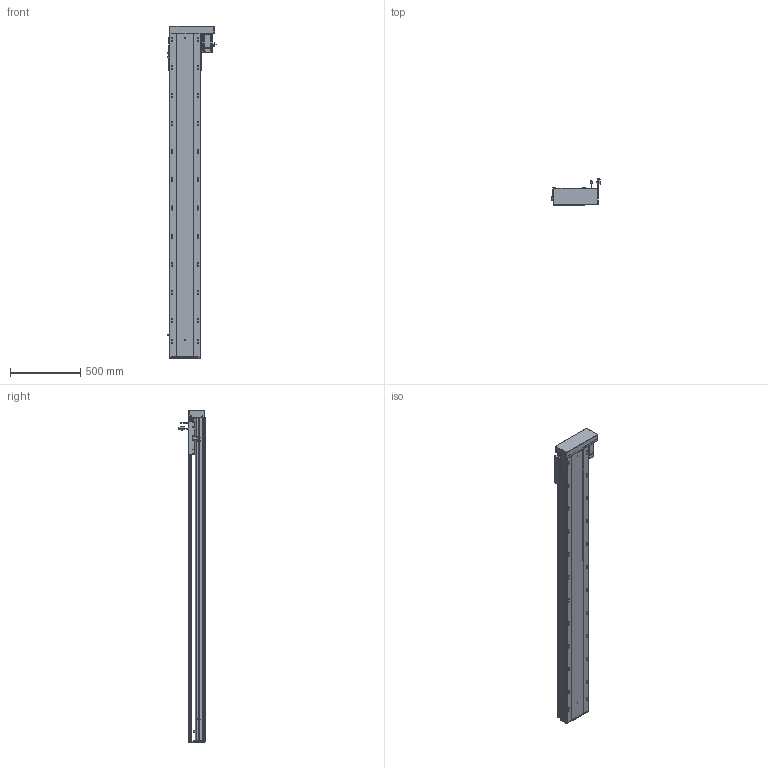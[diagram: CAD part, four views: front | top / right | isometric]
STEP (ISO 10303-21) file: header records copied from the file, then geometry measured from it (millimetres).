
FILE_DESCRIPTION (( 'STEP AP203' ), '1' );
FILE_NAME ('RY220-L2525-800-RK-邧嶺.SLDASM_1950.step', '2022-08-06T08:53:49', ( '' ), ( '' ), 'SwSTEP 2.0', 'SolidWorks 2016', '' );
FILE_SCHEMA (( 'CONFIG_CONTROL_DESIGN' ));
Length unit declared in the file: millimetre
Products named in the file (12): RY220綴裔啣; RY220-俋离672覜茼んえ; 滅袉蝶18-10; 覜茼ん672; RY220半封闭25-32螺母铝滑块; 怢湛750W_ECMA-CX0807ES; RY220-800-蛌殏奻裔啣_1950; RY220-L2525-800-RK-邧嶺.SLDASM_1950; RY220酘衵殏萇儂欶; RY220蛌殏菁釱-800-邧嶺_1950; RY220左右折电机安装板; 滅袉蝶18-15
Assembly tree (15 placements, depth 2):
  RY220-L2525-800-RK-邧嶺.SLDASM_1950
    RY220蛌殏菁釱-800-邧嶺_1950
    RY220-800-蛌殏奻裔啣_1950
    怢湛750W_ECMA-CX0807ES
    滅袉蝶18-10  x2
    RY220-俋离672覜茼んえ
    覜茼ん672  x3
    RY220綴裔啣
    RY220半封闭25-32螺母铝滑块
    滅袉蝶18-15  x2
    RY220左右折电机安装板
    RY220酘衵殏萇儂欶
Bounding box: 347.44 x 187.27 x 2364 mm (x, y, z)
Volume: 17884908.9 mm3; surface area: 5445501.8 mm2
Topology: 16 solids, 16 shells, 2373 faces, 6556 edges, 4109 vertices
Faces by surface type: cylinder 1109, plane 904, cone 290, bspline 44, sphere 16, torus 10
Entity records: 78403 total; most frequent: CARTESIAN_POINT 22499, ORIENTED_EDGE 11560, DIRECTION 11036, EDGE_CURVE 5780, AXIS2_PLACEMENT_3D 3931, VERTEX_POINT 3765, VECTOR 3174, LINE 3174
